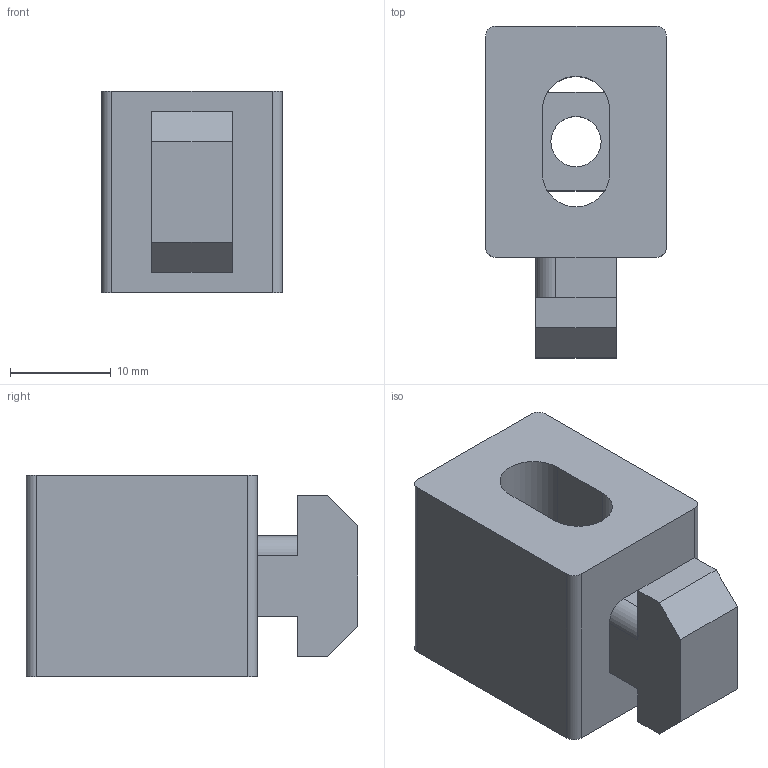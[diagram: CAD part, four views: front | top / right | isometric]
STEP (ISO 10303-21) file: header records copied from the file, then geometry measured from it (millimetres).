
FILE_DESCRIPTION (( 'STEP AP203' ), '1' );
FILE_NAME ('CP-MB6_8-40X40.STEP', '2018-09-03T09:06:46', ( '' ), ( '' ), 'SwSTEP 2.0', 'SolidWorks 2013', '' );
FILE_SCHEMA (( 'CONFIG_CONTROL_DESIGN' ));
Length unit declared in the file: millimetre
Products named in the file (1): CP-MB6_8-40X40
Bounding box: 18 x 33 x 20 mm (x, y, z)
Volume: 7405.2 mm3; surface area: 4090.7 mm2
Topology: 2 solids, 2 shells, 48 faces, 126 edges, 84 vertices
Faces by surface type: plane 32, cylinder 16
Entity records: 1571 total; most frequent: CARTESIAN_POINT 259, DIRECTION 256, ORIENTED_EDGE 252, EDGE_CURVE 126, LINE 94, VECTOR 94, VERTEX_POINT 84, AXIS2_PLACEMENT_3D 81
